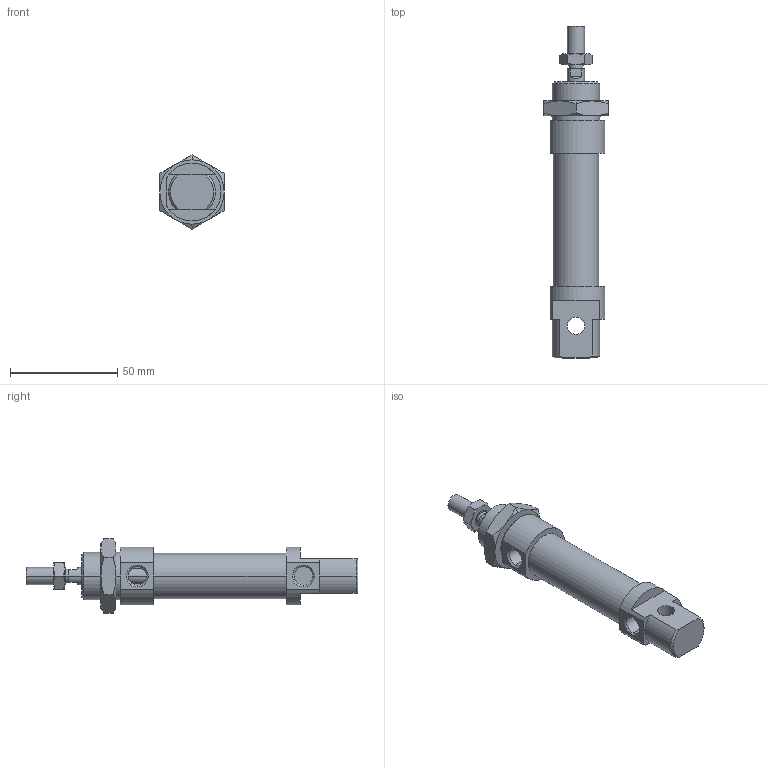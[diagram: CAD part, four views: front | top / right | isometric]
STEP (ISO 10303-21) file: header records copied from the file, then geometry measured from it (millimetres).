
FILE_DESCRIPTION((''),'2;1');
FILE_NAME('I:\DOC-EDP\Lib-3d\1200\CILINDRI\1280\1280_20_0025.stp','2003-04-07T15:49:26',('maffial1'),(''),'Autodesk Inventor (R) 6.0','Autodesk Inventor (R) 6.0','');
FILE_SCHEMA(('AUTOMOTIVE_DESIGN { 1 0 10303 214 1 1 1 1 }'));
Length unit declared in the file: millimetre
Products named in the file (5): 1280_20_0025; S1280_20_25; 1200_20_05; 1200_20_06; C1280_20_25
Assembly tree (4 placements, depth 2):
  1280_20_0025
    S1280_20_25
    1200_20_05
    1200_20_06
    C1280_20_25
Bounding box: 30 x 155 x 34.64 mm (x, y, z)
Volume: 53181.4 mm3; surface area: 17453.1 mm2
Topology: 4 solids, 4 shells, 124 faces, 281 edges, 170 vertices
Faces by surface type: plane 41, cone 40, cylinder 22, bspline 21
Entity records: 3816 total; most frequent: CARTESIAN_POINT 1039, DIRECTION 573, ORIENTED_EDGE 562, EDGE_CURVE 281, AXIS2_PLACEMENT_3D 236, VERTEX_POINT 170, EDGE_LOOP 137, FACE_OUTER_BOUND 124
